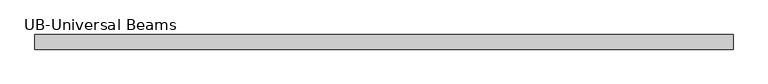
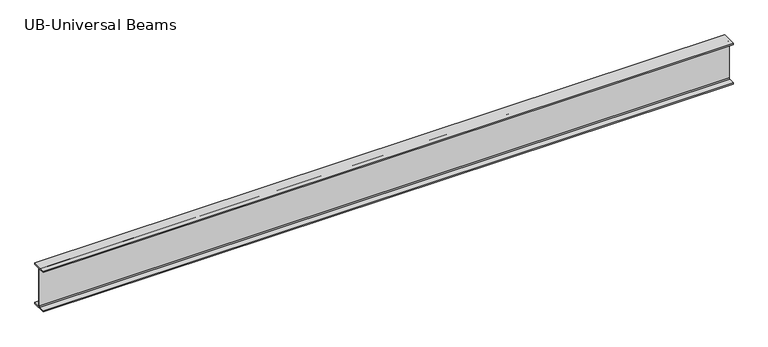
"""IFC4 building model written with IfcOpenShell, lengths in millimetres: beam geometry."""

from ifc_helpers import new_model, si_unit, point, frame, frame_2d, origin, place, context, project, spatial, polyline, circle_curve, trimmed, segment, composite_curve, outline, extrude, source, transform, mapped, element, save


def ub_universal_beams_bf94d013(model_context):
    return source(origin(), model_context, "Body", "SweptSolid", [
        extrude(outline(composite_curve([segment(polyline([(76.9, -214.0), (76.9, -229.0), (-76.9, -229.0), (-76.9, -214.0), (-14.7, -214.0)]), True, "CONTINUOUS"), segment(trimmed(circle_curve(frame_2d((-14.7, -203.8)), 10.2), [point((-14.7, -214.0))], [point((-4.5, -203.8))], True, "CARTESIAN"), True, "CONTINUOUS"), segment(polyline([(-4.5, -203.8), (-4.5, 203.8)]), True, "CONTINUOUS"), segment(trimmed(circle_curve(frame_2d((-14.7, 203.8)), 10.2), [point((-4.5, 203.8))], [point((-14.7, 214.0))], True, "CARTESIAN"), True, "CONTINUOUS"), segment(polyline([(-14.7, 214.0), (-76.9, 214.0), (-76.9, 229.0), (76.9, 229.0), (76.9, 214.0), (14.7, 214.0)]), True, "CONTINUOUS"), segment(trimmed(circle_curve(frame_2d((14.7, 203.8)), 10.2), [point((14.7, 214.0))], [point((4.5, 203.8))], True, "CARTESIAN"), True, "CONTINUOUS"), segment(polyline([(4.5, 203.8), (4.5, -203.8)]), True, "CONTINUOUS"), segment(trimmed(circle_curve(frame_2d((14.7, -203.8)), 10.2), [point((4.5, -203.8))], [point((14.7, -214.0))], True, "CARTESIAN"), True, "CONTINUOUS"), segment(polyline([(14.7, -214.0), (76.9, -214.0)]), True, "CONTINUOUS")], self_intersect=False)), frame((-3660.4, 0.0, 0.0), z_axis=(1.0, 0.0, 0.0), x_axis=(0.0, 1.0, 0.0)), (0.0, 0.0, 1.0), 7320.8),
    ])


if __name__ == "__main__":
    model = new_model("IFC4")
    model_context = context("Model", 3, world=origin())
    ifc_project = project(units=[si_unit("LENGTHUNIT", "METRE", prefix="MILLI")], contexts=[model_context])
    site = spatial("IfcSite", under=ifc_project)
    building = spatial("IfcBuilding", under=site)
    placement = place(None, origin())
    ub_universal_beams_shape = ub_universal_beams_bf94d013(model_context)
    element("IfcBeam", 1, ObjectType="UB-Universal Beams : UB 18\" x 6\" x 2 1/2\"", at=placement, inside=building, context=model_context, shape_type="MappedRepresentation", body=[
        mapped(ub_universal_beams_shape, transform((0.0, 0.0, 0.0), x_axis=(1.0, 0.0, 0.0), y_axis=(0.0, 1.0, 0.0), z_axis=(0.0, 0.0, 1.0))),
    ])
    save(model, "model.ifc")
